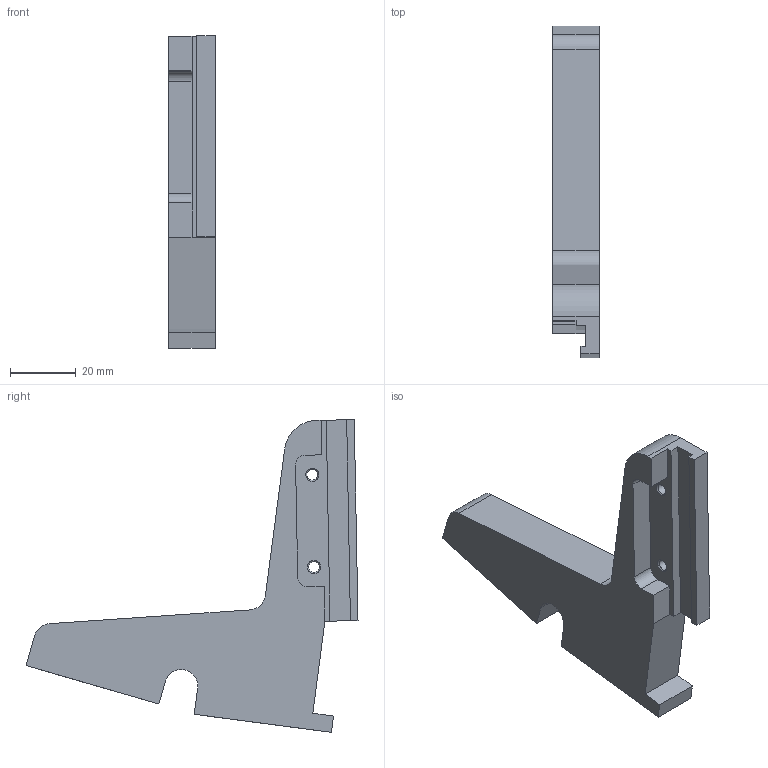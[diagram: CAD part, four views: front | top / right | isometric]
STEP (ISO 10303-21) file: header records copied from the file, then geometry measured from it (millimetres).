
FILE_DESCRIPTION(/* description */ (''),/* implementation_level */ '2;1');
FILE_NAME(/* name */ 'ASSY_STAVE_ONWHEELS_12.stp',/* time_stamp */ '2017-12-06T14:21:08+01:00',/* author */ (''),/* organization */ (''),/* preprocessor_version */ 'ST-DEVELOPER v16',/* originating_system */ 'SIEMENS PLM Software NX 10.0',/* authorisation */ '');
FILE_SCHEMA (('AP203_CONFIGURATION_CONTROLLED_3D_DESIGN_OF_MECHANICAL_PARTS_AND_ASSEMBLIES_MIM_LF { 1 0 10303 403 2 1 2}'));
Length unit declared in the file: millimetre
Products named in the file (1): turc1DB80072j4js
Bounding box: 14 x 100.77 x 94.91 mm (x, y, z)
Volume: 43000.1 mm3; surface area: 13548.1 mm2
Topology: 1 solids, 1 shells, 58 faces, 165 edges, 111 vertices
Faces by surface type: plane 29, cylinder 16, cone 13
Full cylindrical faces by diameter (mm): 2.5 x4, 3.3 x2, 3.8 x1, 4 x1
Entity records: 1773 total; most frequent: DIRECTION 304, CARTESIAN_POINT 287, ORIENTED_EDGE 244, EDGE_CURVE 122, AXIS2_PLACEMENT_3D 111, VERTEX_POINT 94, EDGE_LOOP 85, LINE 82
